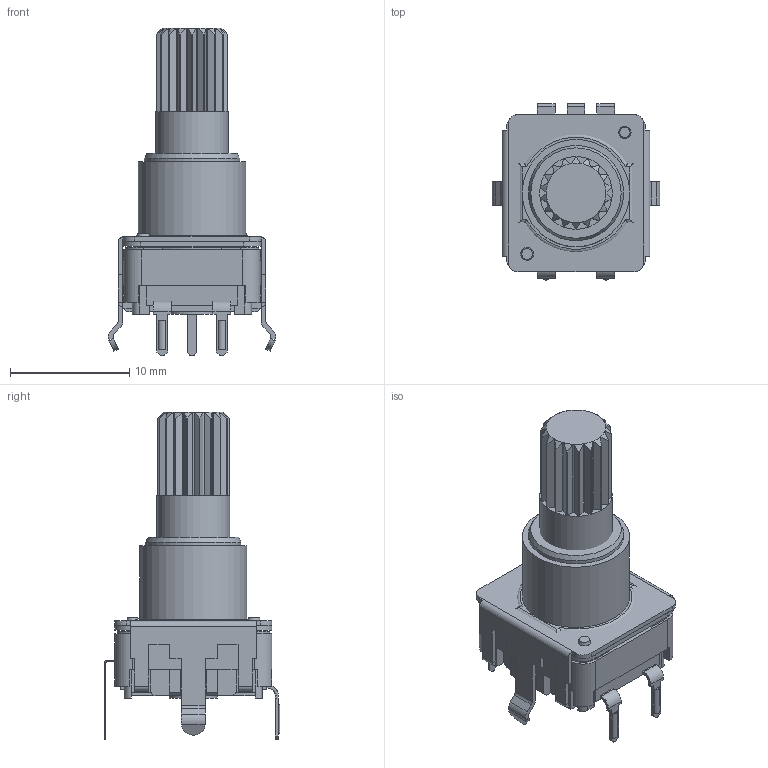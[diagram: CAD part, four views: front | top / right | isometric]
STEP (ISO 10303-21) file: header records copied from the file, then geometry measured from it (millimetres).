
FILE_DESCRIPTION(/* description */ (''),/* implementation_level */ '2;1');
FILE_NAME(/* name */ '\\Forward-ks-ad\開發專區\\X2\9AD896C45EE08A2D8A088AB2\X0\\設計機種開發作業\\X2\91CF75226A5F7A2E5C086848\X0\\ENCODER\機種開發\Encoder\DC12K\3D\CTS\DC12S12208K231.stp',/* time_stamp */ '2020-06-16T11:55:28+08:00',/* author */ ('jia'),/* organization */ (''),/* preprocessor_version */ 'ST-DEVELOPER v15.2',/* originating_system */ 'Autodesk Inventor 2014',/* authorisation */ '');
FILE_SCHEMA (('AUTOMOTIVE_DESIGN { 1 0 10303 214 3 1 1 }'));
Length unit declared in the file: millimetre
Products named in the file (1): 組合1_Shrinkwrap_1
Bounding box: 14.05 x 14.76 x 27.5 mm (x, y, z)
Surface area: 2413.9 mm2 (no closed solid volume)
Topology: 0 solids, 25 shells, 369 faces, 1137 edges, 776 vertices
Faces by surface type: plane 279, cylinder 84, cone 4, torus 2
Full cylindrical faces by diameter (mm): 1.031 x1, 1.067 x1, 4 x1, 6 x1, 6.1 x1, 7.98 x1, 9 x1
Entity records: 12715 total; most frequent: CARTESIAN_POINT 2462, DIRECTION 2050, ORIENTED_EDGE 1883, EDGE_CURVE 1125, LINE 832, VECTOR 832, VERTEX_POINT 775, AXIS2_PLACEMENT_3D 609
